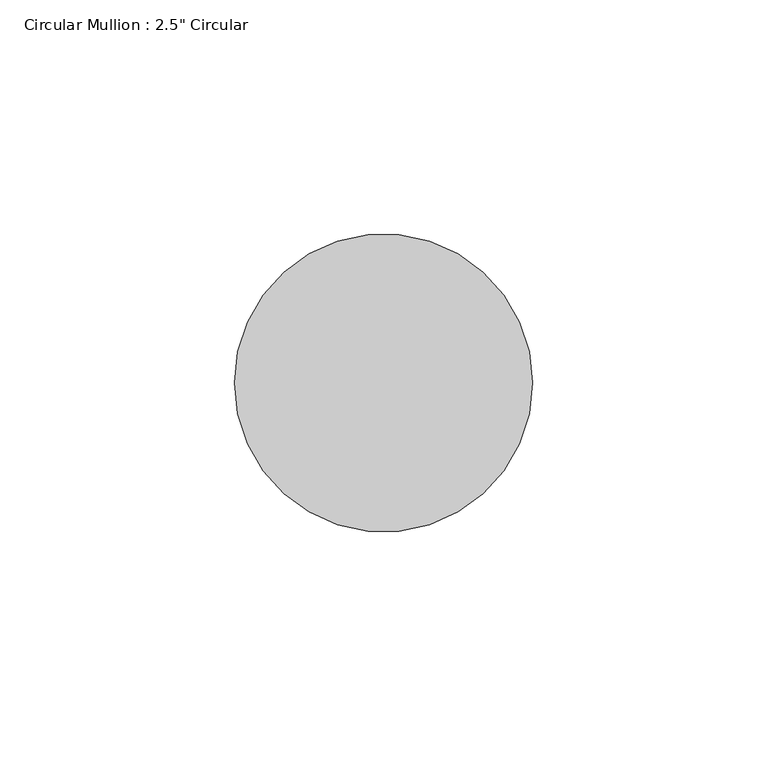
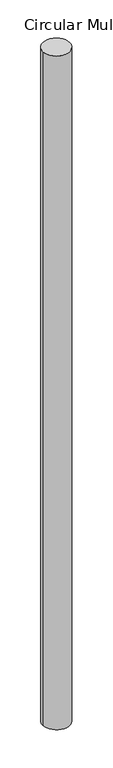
"""IFC4 building model written with IfcOpenShell, lengths in millimetres: member geometry."""

from ifc_helpers import new_model, si_unit, point, frame, origin, origin_2d, place, context, project, spatial, circle_curve, trimmed, segment, composite_curve, outline, extrude, source, transform, mapped, element, save


def member_401bd103(model_context):
    return source(origin(), model_context, "Body", "SweptSolid", [
        extrude(outline(composite_curve([segment(trimmed(circle_curve(origin_2d(), 31.75), [point((31.75, 0.0))], [point((-31.75, 0.0))], False, "CARTESIAN"), True, "CONTINUOUS"), segment(trimmed(circle_curve(origin_2d(), 31.75), [point((-31.75, 0.0))], [point((31.75, 0.0))], False, "CARTESIAN"), True, "CONTINUOUS")], self_intersect=False)), frame((0.0, 0.0, -1664.4780717), z_axis=(0.0, 0.0, 1.0), x_axis=(1.0, 0.0, 0.0)), (0.0, 0.0, 1.0), 1664.4780717),
    ])


if __name__ == "__main__":
    model = new_model("IFC4")
    model_context = context("Model", 3, world=origin())
    ifc_project = project(units=[si_unit("LENGTHUNIT", "METRE", prefix="MILLI")], contexts=[model_context])
    site = spatial("IfcSite", under=ifc_project)
    building = spatial("IfcBuilding", under=site)
    placement = place(None, origin())
    member_shape = member_401bd103(model_context)
    element("IfcMember", 1, ObjectType="Circular Mullion : 2.5\" Circular", at=placement, inside=building, context=model_context, shape_type="MappedRepresentation", body=[
        mapped(member_shape, transform((0.0, 0.0, 0.0), x_axis=(1.0, 0.0, 0.0), y_axis=(0.0, 1.0, 0.0), z_axis=(0.0, 0.0, 1.0))),
    ])
    save(model, "model.ifc")
